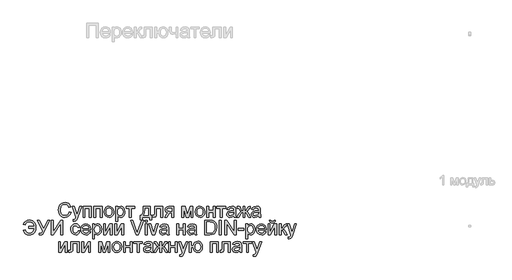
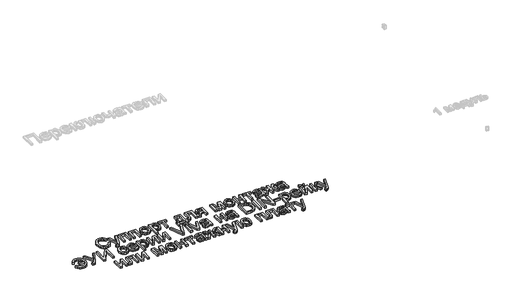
# One storey, part 2 of 15: 1 proxy.
"""IFC4 building model written with IfcOpenShell, lengths in millimetres."""

from ifc_helpers import new_model, si_unit, origin, origin_with_axes, place, context, project, spatial, polyline, outline, extrude, element, save

model = new_model("IFC4")

# Units and contexts
model_context = context("Model", 3, world=origin())
ifc_project = project(units=[si_unit("LENGTHUNIT", "METRE", prefix="MILLI")], contexts=[model_context])

# Site, building, storey
site = spatial("IfcSite", under=ifc_project)
building = spatial("IfcBuilding", under=site)
storey = spatial("IfcBuildingStorey", under=building, Name="Этаж 01", Elevation=0.0)

# Proxy
placement = place(None, origin())
element("IfcBuildingElementProxy", 1, Name="150 мм Arial", ObjectType="150 мм Arial", at=placement, inside=storey, context=model_context, shape_type="SweptSolid", body=[
    extrude(outline(polyline([(-2411.9581264, -14271.2929927), (-2393.1225682, -14276.1490351), (-2401.8137804, -14298.0977946), (-2415.4530054, -14314.1328511), (-2433.3688585, -14323.9415048), (-2454.8899552, -14327.211056), (-2476.7375472, -14324.7370496), (-2494.0877818, -14317.3150303), (-2507.3867159, -14305.2025156), (-2517.0804065, -14288.6570229), (-2522.9987081, -14269.2052624), (-2524.9714753, -14248.3739444), (-2522.7411907, -14226.4021923), (-2516.0503369, -14207.4286784), (-2505.2484019, -14192.0558095), (-2490.6848734, -14180.8859924), (-2473.4128137, -14174.084774), (-2454.485285, -14171.8177012), (-2433.8333095, -14174.7515601), (-2416.7589864, -14183.5531369), (-2403.7957446, -14197.6798055), (-2395.477013, -14216.58894), (-2414.3125712, -14221.0771004), (-2420.8424766, -14207.3413064), (-2429.763615, -14197.9189288), (-2441.1863509, -14192.4696767), (-2455.221049, -14190.6532594), (-2471.3986598, -14192.6674133), (-2484.6883968, -14198.7098751), (-2494.772962, -14208.1460482), (-2501.3350571, -14220.3413364), (-2506.1359172, -14248.3371562), (-2504.714973, -14265.7379746), (-2500.4521403, -14280.7843482), (-2493.1864709, -14292.9014614), (-2482.7570164, -14301.5144986), (-2470.2536271, -14306.660248), (-2456.7661534, -14308.3754978), (-2441.0437966, -14306.0394472), (-2427.9425991, -14299.0312952), (-2418.0511719, -14287.4246182), (-2411.9581264, -14271.2929927)])), origin_with_axes(), (0.0, 0.0, 1.0), 20.0),
    extrude(outline(polyline([(-2369.5781206, -14367.2366171), (-2371.9325653, -14349.1000347), (-2362.3676334, -14350.7555037), (-2353.428101, -14348.6769704), (-2347.9466592, -14342.882829), (-2342.7963113, -14329.0136778), (-2341.3247833, -14324.451941), (-2381.3503444, -14214.1977071), (-2361.4847167, -14214.1977071), (-2340.2579255, -14275.6340003), (-2332.8634974, -14300.2085175), (-2325.4690693, -14278.5034798), (-2303.653667, -14214.1977071), (-2283.9351921, -14214.1977071), (-2322.452437, -14327.5053616), (-2332.4588272, -14352.0798789), (-2343.3849225, -14365.3604189), (-2358.0634141, -14369.5910618), (-2369.5781206, -14367.2366171)])), origin_with_axes(), (0.0, 0.0, 1.0), 20.0),
    extrude(outline(polyline([(-2268.3369955, -14214.1977071), (-2183.5769838, -14214.1977071), (-2183.5769838, -14324.8566112), (-2202.4125419, -14324.8566112), (-2202.4125419, -14233.0332652), (-2249.5014373, -14233.0332652), (-2249.5014373, -14324.8566112), (-2268.3369955, -14324.8566112), (-2268.3369955, -14214.1977071)])), origin_with_axes(), (0.0, 0.0, 1.0), 20.0),
    extrude(outline(polyline([(-2155.3236466, -14214.1977071), (-2070.5636349, -14214.1977071), (-2070.5636349, -14324.8566112), (-2089.399193, -14324.8566112), (-2089.399193, -14233.0332652), (-2136.4880884, -14233.0332652), (-2136.4880884, -14324.8566112), (-2155.3236466, -14324.8566112), (-2155.3236466, -14214.1977071)])), origin_with_axes(), (0.0, 0.0, 1.0), 20.0),
    extrude(outline(polyline([(-2047.0191872, -14269.5271591), (-2042.9448941, -14242.8465174), (-2030.7220148, -14224.0937327), (-2015.6204589, -14214.9058799), (-1997.5390588, -14211.8432623), (-1977.751606, -14215.572666), (-1961.9464758, -14226.7608772), (-1951.5859991, -14244.524979), (-1948.1325069, -14267.9820548), (-1949.6592172, -14287.010751), (-1954.239348, -14301.4961045), (-1961.7395422, -14312.3440249), (-1972.0264425, -14320.4604214), (-1984.2447232, -14325.5233973), (-1997.5390588, -14327.211056), (-2017.5656349, -14323.4954478), (-2033.3523711, -14312.3486234), (-2043.6024832, -14294.212041), (-2047.0191872, -14269.5271591)]), holes=[polyline([(-2028.183629, -14269.4903709), (-2026.0039282, -14286.5371029), (-2019.4648257, -14298.6818073), (-2009.6239824, -14305.9520752), (-1997.5390588, -14308.3754978), (-1985.5093176, -14305.9382796), (-1975.6868683, -14298.626625), (-1969.1477659, -14286.3209722), (-1966.968065, -14268.9017597), (-1969.1615614, -14252.3516685), (-1975.7420506, -14240.372511), (-1985.5782955, -14233.1022431), (-1997.5390588, -14230.6788205), (-2009.6239824, -14233.093046), (-2019.4648257, -14240.3357228), (-2026.0039282, -14252.452836), (-2028.183629, -14269.4903709)])]), origin_with_axes(), (0.0, 0.0, 1.0), 20.0),
    extrude(outline(polyline([(-1926.942504, -14367.2366171), (-1926.942504, -14214.1977071), (-1908.1069458, -14214.1977071), (-1908.1069458, -14232.6653832), (-1895.0839232, -14217.0487925), (-1877.4991638, -14211.8432623), (-1864.7612497, -14213.6642782), (-1853.6236223, -14219.1273258), (-1844.5553311, -14227.9013114), (-1838.0254257, -14239.6551411), (-1832.7647132, -14268.6810306), (-1834.2500367, -14284.7896634), (-1838.7060074, -14299.1968421), (-1845.9900709, -14311.171401), (-1855.959673, -14319.9821748), (-1867.5709485, -14325.4038357), (-1879.7800322, -14327.211056), (-1896.1691751, -14322.3734077), (-1908.1069458, -14310.1413314), (-1908.1069458, -14367.2366171), (-1926.942504, -14367.2366171)]), holes=[polyline([(-1908.1069458, -14270.4100759), (-1906.0697993, -14287.2958595), (-1899.9583596, -14299.1048716), (-1890.9406522, -14306.0578413), (-1880.1847024, -14308.3754978), (-1869.2540086, -14305.9750678), (-1860.0063749, -14298.7737778), (-1853.7017972, -14286.5325044), (-1851.6002713, -14269.0121243), (-1853.6512135, -14252.2183113), (-1859.8040398, -14240.2437523), (-1868.8079517, -14233.0700534), (-1879.4121502, -14230.6788205), (-1890.0577354, -14233.2218047), (-1899.4065366, -14240.8507576), (-1905.9318435, -14253.3265558), (-1908.1069458, -14270.4100759)])]), origin_with_axes(), (0.0, 0.0, 1.0), 20.0),
    extrude(outline(polyline([(-1820.9924893, -14214.1977071), (-1731.5235881, -14214.1977071), (-1731.5235881, -14233.0332652), (-1766.8402597, -14233.0332652), (-1766.8402597, -14324.8566112), (-1785.6758178, -14324.8566112), (-1785.6758178, -14233.0332652), (-1820.9924893, -14233.0332652), (-1820.9924893, -14214.1977071)])), origin_with_axes(), (0.0, 0.0, 1.0), 20.0),
    extrude(outline(polyline([(-1639.7002421, -14214.1977071), (-1569.066899, -14214.1977071), (-1569.066899, -14306.0210531), (-1554.9402304, -14306.0210531), (-1554.9402304, -14355.4643932), (-1573.7757886, -14355.4643932), (-1573.7757886, -14324.8566112), (-1651.472466, -14324.8566112), (-1651.472466, -14355.4643932), (-1670.3080241, -14355.4643932), (-1670.3080241, -14306.0210531), (-1658.5358003, -14306.0210531), (-1649.9779454, -14290.5562137), (-1643.9860674, -14270.0973762), (-1639.7002421, -14214.1977071)]), holes=[polyline([(-1623.2191287, -14233.0332652), (-1627.6337127, -14275.9467), (-1637.3457974, -14306.0210531), (-1587.9024572, -14306.0210531), (-1587.9024572, -14233.0332652), (-1623.2191287, -14233.0332652)])]), origin_with_axes(), (0.0, 0.0, 1.0), 20.0),
    extrude(outline(polyline([(-1524.3324484, -14214.1977071), (-1439.5724367, -14214.1977071), (-1439.5724367, -14324.7462466), (-1458.4079949, -14324.7462466), (-1458.4079949, -14233.0332652), (-1505.4968903, -14233.0332652), (-1505.4968903, -14285.8243315), (-1506.7660832, -14310.1781196), (-1513.737447, -14320.4604214), (-1530.2185604, -14324.8566112), (-1545.5224514, -14323.900118), (-1545.5224514, -14306.0210531), (-1537.0979537, -14306.0210531), (-1528.5814855, -14304.8622248), (-1525.178577, -14301.1834048), (-1524.3324484, -14284.7574737), (-1524.3324484, -14214.1977071)])), origin_with_axes(), (0.0, 0.0, 1.0), 20.0),
    extrude(outline(polyline([(-1326.5590878, -14214.1977071), (-1326.5590878, -14324.8566112), (-1345.394646, -14324.8566112), (-1345.394646, -14282.4766054), (-1355.6585536, -14282.4766054), (-1369.6380695, -14284.8678383), (-1382.7714567, -14300.9442815), (-1397.7810421, -14324.8566112), (-1419.5596562, -14324.8566112), (-1400.6505217, -14294.6167112), (-1392.2996004, -14283.7641924), (-1384.6108667, -14278.9449382), (-1397.4867365, -14274.9994038), (-1406.5366336, -14267.5038082), (-1411.8893166, -14257.5342061), (-1413.6735443, -14246.1666524), (-1411.2363261, -14233.2723885), (-1403.9246714, -14223.0636632), (-1391.9960977, -14216.4141961), (-1375.7081224, -14214.1977071), (-1326.5590878, -14214.1977071)]), holes=[polyline([(-1345.394646, -14233.0332652), (-1370.2266807, -14233.0332652), (-1383.0519667, -14234.1231156), (-1390.3314317, -14237.3926669), (-1394.8379861, -14247.6013922), (-1393.1779186, -14254.7796897), (-1388.1977161, -14259.7598922), (-1364.6716625, -14263.6410472), (-1345.394646, -14263.6410472), (-1345.394646, -14233.0332652)])]), origin_with_axes(), (0.0, 0.0, 1.0), 20.0),
    extrude(outline(polyline([(-1239.4446314, -14214.1977071), (-1207.0342276, -14214.1977071), (-1182.0550401, -14302.7836915), (-1155.1260781, -14214.1977071), (-1124.0768377, -14214.1977071), (-1124.0768377, -14324.8566112), (-1142.9123958, -14324.8566112), (-1142.9123958, -14235.755592), (-1169.9885107, -14324.8566112), (-1194.7101808, -14324.8566112), (-1220.6090732, -14231.4881608), (-1220.6090732, -14324.8566112), (-1239.4446314, -14324.8566112), (-1239.4446314, -14214.1977071)])), origin_with_axes(), (0.0, 0.0, 1.0), 20.0),
    extrude(outline(polyline([(-1100.53239, -14269.5271591), (-1096.4580969, -14242.8465174), (-1084.2352176, -14224.0937327), (-1069.1336617, -14214.9058799), (-1051.0522616, -14211.8432623), (-1031.2648088, -14215.572666), (-1015.4596786, -14226.7608772), (-1005.0992019, -14244.524979), (-1001.6457097, -14267.9820548), (-1003.17242, -14287.010751), (-1007.7525508, -14301.4961045), (-1015.252745, -14312.3440249), (-1025.5396453, -14320.4604214), (-1037.757926, -14325.5233973), (-1051.0522616, -14327.211056), (-1071.0788378, -14323.4954478), (-1086.8655739, -14312.3486234), (-1097.115686, -14294.212041), (-1100.53239, -14269.5271591)]), holes=[polyline([(-1081.6968318, -14269.4903709), (-1079.517131, -14286.5371029), (-1072.9780286, -14298.6818073), (-1063.1371852, -14305.9520752), (-1051.0522616, -14308.3754978), (-1039.0225204, -14305.9382796), (-1029.2000711, -14298.626625), (-1022.6609687, -14286.3209722), (-1020.4812678, -14268.9017597), (-1022.6747642, -14252.3516685), (-1029.2552534, -14240.372511), (-1039.0914983, -14233.1022431), (-1051.0522616, -14230.6788205), (-1063.1371852, -14233.093046), (-1072.9780286, -14240.3357228), (-1079.517131, -14252.452836), (-1081.6968318, -14269.4903709)])]), origin_with_axes(), (0.0, 0.0, 1.0), 20.0),
    extrude(outline(polyline([(-980.4557068, -14214.1977071), (-961.6201486, -14214.1977071), (-961.6201486, -14256.5777129), (-912.1768085, -14256.5777129), (-912.1768085, -14214.1977071), (-893.3412503, -14214.1977071), (-893.3412503, -14324.8566112), (-912.1768085, -14324.8566112), (-912.1768085, -14275.4132711), (-961.6201486, -14275.4132711), (-961.6201486, -14324.8566112), (-980.4557068, -14324.8566112), (-980.4557068, -14214.1977071)])), origin_with_axes(), (0.0, 0.0, 1.0), 20.0),
    extrude(outline(polyline([(-874.5056922, -14214.1977071), (-785.0367909, -14214.1977071), (-785.0367909, -14233.0332652), (-820.3534625, -14233.0332652), (-820.3534625, -14324.8566112), (-839.1890206, -14324.8566112), (-839.1890206, -14233.0332652), (-874.5056922, -14233.0332652), (-874.5056922, -14214.1977071)])), origin_with_axes(), (0.0, 0.0, 1.0), 20.0),
    extrude(outline(polyline([(-697.9223345, -14310.7299426), (-716.1876755, -14323.4954478), (-736.366003, -14327.211056), (-752.1067538, -14324.9761729), (-763.7180293, -14318.2715235), (-770.8779326, -14308.0903893), (-773.2645671, -14295.4260516), (-769.6593235, -14280.5268308), (-760.1863622, -14269.7111001), (-746.9977926, -14263.5306826), (-730.7006202, -14260.6979913), (-698.0326991, -14254.2232681), (-697.9223345, -14250.0294134), (-699.2191185, -14241.6233098), (-703.1094706, -14236.123474), (-711.8098798, -14232.0399838), (-723.9315915, -14230.6788205), (-742.9878789, -14234.3024581), (-752.0745642, -14247.1599338), (-770.9101223, -14244.8054891), (-762.7615361, -14226.4113893), (-746.3539991, -14215.6324468), (-721.5035704, -14211.8432623), (-698.6764926, -14215.1909885), (-685.7822286, -14223.597092), (-680.0064813, -14236.3809914), (-679.0867763, -14252.8621048), (-679.0867763, -14276.2961879), (-678.1302831, -14309.0192913), (-674.3778868, -14324.8566112), (-693.2134449, -14324.8566112), (-697.9223345, -14310.7299426)]), holes=[polyline([(-697.9223345, -14273.0588263), (-728.3093873, -14278.8345736), (-744.5145892, -14281.8879942), (-751.853835, -14286.8544011), (-754.4290089, -14294.1016764), (-748.8188085, -14304.2920077), (-732.3560892, -14308.3754978), (-713.2998019, -14303.8689434), (-701.0125432, -14292.9612422), (-698.0326991, -14278.3931152), (-697.9223345, -14273.0588263)])]), origin_with_axes(), (0.0, 0.0, 1.0), 20.0),
    extrude(outline(polyline([(-584.9089856, -14214.1977071), (-584.9089856, -14261.2866024), (-573.927708, -14257.4054474), (-563.5350416, -14237.2639082), (-551.1374184, -14217.9501034), (-533.5158708, -14214.1977071), (-526.0478663, -14214.1977071), (-526.0478663, -14233.1436298), (-531.2350025, -14233.0332652), (-540.9470871, -14234.9830398), (-547.6793276, -14247.196722), (-555.49682, -14260.5876267), (-566.6620386, -14267.3934436), (-554.3471888, -14274.7234923), (-542.3450387, -14290.1653391), (-521.3389768, -14324.8566112), (-542.9336499, -14324.8566112), (-563.608618, -14290.6435857), (-574.1484372, -14276.4249466), (-584.9089856, -14273.0588263), (-584.9089856, -14324.8566112), (-603.7445437, -14324.8566112), (-603.7445437, -14273.0588263), (-614.4683039, -14276.3513702), (-625.0816994, -14290.5700093), (-645.7566676, -14324.8566112), (-667.3145525, -14324.8566112), (-646.3820669, -14290.1653391), (-634.2879464, -14274.7234923), (-621.9179143, -14267.3934436), (-633.7637145, -14259.8886509), (-643.9172576, -14240.5748461), (-648.8836645, -14234.2104876), (-657.0138566, -14232.9229006), (-662.6056629, -14233.0332652), (-662.6056629, -14214.1977071), (-659.7729716, -14214.1977071), (-643.25507, -14215.3749295), (-634.6834195, -14220.3781246), (-625.0816994, -14237.2639082), (-614.7993977, -14257.2766887), (-603.7445437, -14261.2866024), (-603.7445437, -14214.1977071), (-584.9089856, -14214.1977071)])), origin_with_axes(), (0.0, 0.0, 1.0), 20.0),
    extrude(outline(polyline([(-441.2878546, -14310.7299426), (-459.5531957, -14323.4954478), (-479.7315231, -14327.211056), (-495.472274, -14324.9761729), (-507.0835495, -14318.2715235), (-514.2434528, -14308.0903893), (-516.6300872, -14295.4260516), (-513.0248437, -14280.5268308), (-503.5518823, -14269.7111001), (-490.3633128, -14263.5306826), (-474.0661404, -14260.6979913), (-441.3982192, -14254.2232681), (-441.2878546, -14250.0294134), (-442.5846387, -14241.6233098), (-446.4749908, -14236.123474), (-455.1754, -14232.0399838), (-467.2971117, -14230.6788205), (-486.353399, -14234.3024581), (-495.4400843, -14247.1599338), (-514.2756425, -14244.8054891), (-506.1270563, -14226.4113893), (-489.7195193, -14215.6324468), (-464.8690905, -14211.8432623), (-442.0420127, -14215.1909885), (-429.1477488, -14223.597092), (-423.3720015, -14236.3809914), (-422.4522965, -14252.8621048), (-422.4522965, -14276.2961879), (-421.4958033, -14309.0192913), (-417.7434069, -14324.8566112), (-436.5789651, -14324.8566112), (-441.2878546, -14310.7299426)]), holes=[polyline([(-441.2878546, -14273.0588263), (-471.6749074, -14278.8345736), (-487.8801093, -14281.8879942), (-495.2193551, -14286.8544011), (-497.7945291, -14294.1016764), (-492.1843287, -14304.2920077), (-475.7216094, -14308.3754978), (-456.665322, -14303.8689434), (-444.3780634, -14292.9612422), (-441.3982192, -14278.3931152), (-441.2878546, -14273.0588263)])]), origin_with_axes(), (0.0, 0.0, 1.0), 20.0),
    extrude(outline(polyline([(-2833.4037401, -14420.7043815), (-2776.8970656, -14420.7043815), (-2781.0449351, -14401.2756137), (-2790.986946, -14386.3258091), (-2806.2724429, -14376.7930669), (-2826.4507704, -14373.6154861), (-2841.6603916, -14375.5284725), (-2853.7752056, -14381.2674316), (-2862.7952122, -14390.8323635), (-2868.7204116, -14404.2232681), (-2887.5559698, -14399.5143786), (-2879.4993541, -14380.7707909), (-2866.3659668, -14366.6257282), (-2848.7904045, -14357.7413781), (-2827.4072636, -14354.779928), (-2806.8702512, -14357.4976562), (-2789.4050534, -14365.6508409), (-2775.5313037, -14378.0300701), (-2765.7686353, -14393.4259316), (-2759.9882894, -14411.2268216), (-2758.0615075, -14430.8211364), (-2761.5471894, -14461.7094284), (-2774.2851034, -14487.2726286), (-2784.1052535, -14497.2916648), (-2796.2016733, -14504.4481192), (-2810.574363, -14508.7419919), (-2827.2233226, -14510.1732828), (-2849.7652918, -14507.083074), (-2867.7271302, -14497.8124477), (-2881.1088378, -14482.3614039), (-2889.9104145, -14460.7299426), (-2871.0748564, -14456.0210531), (-2864.7104979, -14471.4720969), (-2854.9248368, -14482.5085567), (-2841.7178732, -14489.1304326), (-2825.089607, -14491.3377246), (-2806.3092311, -14487.8704368), (-2791.2444634, -14477.4685734), (-2781.0541322, -14461.0518393), (-2776.8970656, -14439.5399397), (-2833.4037401, -14439.5399397), (-2833.4037401, -14420.7043815)])), origin_with_axes(), (0.0, 0.0, 1.0), 20.0),
    extrude(outline(polyline([(-2742.7576165, -14357.1343728), (-2721.8987073, -14357.1343728), (-2676.8331629, -14446.3825448), (-2636.2925671, -14357.1343728), (-2615.6175989, -14357.1343728), (-2672.8232492, -14474.5255174), (-2688.3846576, -14503.3674658), (-2695.7698886, -14508.4718285), (-2705.7854759, -14510.1732828), (-2722.7448359, -14507.818838), (-2722.7448359, -14491.3377246), (-2707.9191915, -14491.3377246), (-2696.9195199, -14487.1438699), (-2686.7291886, -14468.0507943), (-2742.7576165, -14357.1343728)])), origin_with_axes(), (0.0, 0.0, 1.0), 20.0),
    extrude(outline(polyline([(-2597.9592632, -14357.1343728), (-2579.123705, -14357.1343728), (-2579.123705, -14476.475292), (-2500.2498052, -14357.1343728), (-2480.2370247, -14357.1343728), (-2480.2370247, -14507.818838), (-2499.0725829, -14507.818838), (-2499.0725829, -14388.8090125), (-2577.7625416, -14507.818838), (-2597.9592632, -14507.818838), (-2597.9592632, -14357.1343728)])), origin_with_axes(), (0.0, 0.0, 1.0), 20.0),
    extrude(outline(polyline([(-2320.1347804, -14467.7932769), (-2301.2992222, -14470.1477217), (-2306.5507377, -14486.900148), (-2316.4191723, -14499.5598872), (-2329.9756238, -14507.5199339), (-2346.2911903, -14510.1732828), (-2366.3269634, -14506.4714702), (-2381.9941379, -14495.3660324), (-2392.1062942, -14477.3444132), (-2395.477013, -14452.8940561), (-2394.0376747, -14436.1324327), (-2389.7196598, -14421.6056924), (-2382.4539904, -14409.8748553), (-2372.1716886, -14401.5009414), (-2359.8706344, -14396.4793521), (-2346.5487077, -14394.8054891), (-2330.6332128, -14397.1047515), (-2317.9090943, -14404.0025389), (-2308.7810223, -14415.1309693), (-2303.653667, -14430.1221606), (-2322.4892252, -14432.4766054), (-2331.2264226, -14418.3683309), (-2346.4015549, -14413.6410472), (-2358.5738504, -14415.9679008), (-2368.2353513, -14422.9484617), (-2374.539929, -14434.9598088), (-2376.6414549, -14452.3790213), (-2374.5859142, -14470.0327586), (-2368.4192923, -14482.0854924), (-2358.9325353, -14489.0246666), (-2346.9165897, -14491.3377246), (-2337.1631183, -14489.8937878), (-2329.1662834, -14485.5619773), (-2323.3491493, -14478.2319285), (-2320.1347804, -14467.7932769)])), origin_with_axes(), (0.0, 0.0, 1.0), 20.0),
    extrude(outline(polyline([(-2207.3421607, -14474.8566112), (-2188.8744845, -14477.211056), (-2195.5285501, -14491.1261925), (-2206.1465442, -14501.5280559), (-2220.4893435, -14508.011976), (-2238.3178247, -14510.1732828), (-2260.4183355, -14506.443879), (-2277.4236808, -14495.2556678), (-2288.2670026, -14477.3352162), (-2291.8814432, -14453.4090909), (-2288.2302144, -14428.6782238), (-2277.276528, -14410.1829565), (-2260.501109, -14398.6498559), (-2239.3846825, -14394.8054891), (-2218.925845, -14398.6406589), (-2202.5780888, -14410.1461683), (-2191.8589272, -14428.6046474), (-2188.2858733, -14453.2987263), (-2188.3962379, -14458.3754978), (-2273.045885, -14458.3754978), (-2269.7855308, -14472.4745753), (-2262.2117603, -14482.8396505), (-2251.2810665, -14489.2132061), (-2237.9499427, -14491.3377246), (-2219.4822665, -14487.4013873), (-2207.3421607, -14474.8566112)]), holes=[polyline([(-2273.045885, -14439.5399397), (-2207.1214315, -14439.5399397), (-2209.6690143, -14429.5887317), (-2214.6630124, -14422.4702151), (-2225.6442899, -14415.8483392), (-2239.4582589, -14413.6410472), (-2252.1547862, -14415.4022823), (-2262.6532187, -14420.6859874), (-2269.9510777, -14428.9219456), (-2273.045885, -14439.5399397)])]), origin_with_axes(), (0.0, 0.0, 1.0), 20.0),
    extrude(outline(polyline([(-2169.4503152, -14550.1988438), (-2169.4503152, -14397.1599338), (-2150.614757, -14397.1599338), (-2150.614757, -14415.62761), (-2137.5917344, -14400.0110193), (-2120.006975, -14394.8054891), (-2107.2690609, -14396.6265049), (-2096.1314335, -14402.0895526), (-2087.0631424, -14410.8635382), (-2080.5332369, -14422.6173679), (-2075.2725244, -14451.6432573), (-2076.757848, -14467.7518902), (-2081.2138186, -14482.1590688), (-2088.4978821, -14494.1336278), (-2098.4674842, -14502.9444015), (-2110.0787597, -14508.3660625), (-2122.2878434, -14510.1732828), (-2138.6769863, -14505.3356345), (-2150.614757, -14493.1035582), (-2150.614757, -14550.1988438), (-2169.4503152, -14550.1988438)]), holes=[polyline([(-2150.614757, -14453.3723027), (-2148.5776105, -14470.2580863), (-2142.4661708, -14482.0670983), (-2133.4484634, -14489.020068), (-2122.6925136, -14491.3377246), (-2111.7618198, -14488.9372946), (-2102.5141862, -14481.7360045), (-2096.2096085, -14469.4947311), (-2094.1080826, -14451.9743511), (-2096.1590247, -14435.180538), (-2102.3118511, -14423.2059791), (-2111.3157629, -14416.0322802), (-2121.9199614, -14413.6410472), (-2132.5655466, -14416.1840315), (-2141.9143478, -14423.8129844), (-2148.4396547, -14436.2887825), (-2150.614757, -14453.3723027)])]), origin_with_axes(), (0.0, 0.0, 1.0), 20.0),
    extrude(outline(polyline([(-2054.0825215, -14397.1599338), (-2035.2469633, -14397.1599338), (-2035.2469633, -14481.5520635), (-1988.9674083, -14397.1599338), (-1964.6136203, -14397.1599338), (-1964.6136203, -14507.818838), (-1983.4491784, -14507.818838), (-1983.4491784, -14423.9417431), (-2029.4344278, -14507.818838), (-2054.0825215, -14507.818838), (-2054.0825215, -14397.1599338)])), origin_with_axes(), (0.0, 0.0, 1.0), 20.0),
    extrude(outline(polyline([(-1936.360283, -14397.1599338), (-1917.5247249, -14397.1599338), (-1917.5247249, -14481.5520635), (-1871.2451699, -14397.1599338), (-1846.8913818, -14397.1599338), (-1846.8913818, -14507.818838), (-1865.72694, -14507.818838), (-1865.72694, -14423.9417431), (-1911.7121894, -14507.818838), (-1936.360283, -14507.818838), (-1936.360283, -14397.1599338)])), origin_with_axes(), (0.0, 0.0, 1.0), 20.0),
    extrude(outline(polyline([(-1712.9087592, -14507.818838), (-1772.8735244, -14357.1343728), (-1752.713591, -14357.1343728), (-1712.5776654, -14465.6963495), (-1704.4474733, -14490.1605022), (-1696.4276458, -14465.6963495), (-1656.1813555, -14357.1343728), (-1636.0214222, -14357.1343728), (-1693.4478016, -14507.818838), (-1712.9087592, -14507.818838)])), origin_with_axes(), (0.0, 0.0, 1.0), 20.0),
    extrude(outline(polyline([(-1620.864684, -14375.9699309), (-1620.864684, -14357.1343728), (-1602.0291258, -14357.1343728), (-1602.0291258, -14375.9699309), (-1620.864684, -14375.9699309)])), origin_with_axes(), (0.0, 0.0, 1.0), 20.0),
    extrude(outline(polyline([(-1620.864684, -14507.818838), (-1620.864684, -14397.1599338), (-1602.0291258, -14397.1599338), (-1602.0291258, -14507.818838), (-1620.864684, -14507.818838)])), origin_with_axes(), (0.0, 0.0, 1.0), 20.0),
    extrude(outline(polyline([(-1546.6260973, -14507.818838), (-1585.5480124, -14397.1599338), (-1565.6088083, -14397.1599338), (-1542.0275724, -14463.4522694), (-1534.9274499, -14485.7459183), (-1527.9744802, -14464.7030681), (-1504.2460915, -14397.1599338), (-1484.3068874, -14397.1599338), (-1522.7505559, -14507.818838), (-1546.6260973, -14507.818838)])), origin_with_axes(), (0.0, 0.0, 1.0), 20.0),
    extrude(outline(polyline([(-1397.1924309, -14493.6921694), (-1415.457772, -14506.4576746), (-1435.6360994, -14510.1732828), (-1451.3768503, -14507.9383996), (-1462.9881257, -14501.2337503), (-1470.1480291, -14491.0526161), (-1472.5346635, -14478.3882784), (-1468.92942, -14463.4890576), (-1459.4564586, -14452.6733269), (-1446.2678891, -14446.4929094), (-1429.9707167, -14443.660218), (-1397.3027955, -14437.1854949), (-1397.1924309, -14432.9916402), (-1398.4892149, -14424.5855366), (-1402.379567, -14419.0857007), (-1411.0799762, -14415.0022106), (-1423.201688, -14413.6410472), (-1442.2579753, -14417.2646849), (-1451.3446606, -14430.1221606), (-1470.1802187, -14427.7677158), (-1462.0316326, -14409.3736161), (-1445.6240956, -14398.5946736), (-1420.7736668, -14394.8054891), (-1397.946589, -14398.1532152), (-1385.0523251, -14406.5593188), (-1379.2765777, -14419.3432181), (-1378.3568727, -14435.8243315), (-1378.3568727, -14459.2584146), (-1377.4003796, -14491.9815181), (-1373.6479832, -14507.818838), (-1392.4835414, -14507.818838), (-1397.1924309, -14493.6921694)]), holes=[polyline([(-1397.1924309, -14456.0210531), (-1427.5794837, -14461.7968004), (-1443.7846856, -14464.8502209), (-1451.1239314, -14469.8166279), (-1453.6991054, -14477.0639032), (-1448.0889049, -14487.2542345), (-1431.6261857, -14491.3377246), (-1412.5698983, -14486.8311702), (-1400.2826397, -14475.923469), (-1397.3027955, -14461.355342), (-1397.1924309, -14456.0210531)])]), origin_with_axes(), (0.0, 0.0, 1.0), 20.0),
    extrude(outline(polyline([(-1293.5968611, -14397.1599338), (-1274.7613029, -14397.1599338), (-1274.7613029, -14439.5399397), (-1225.3179628, -14439.5399397), (-1225.3179628, -14397.1599338), (-1206.4824046, -14397.1599338), (-1206.4824046, -14507.818838), (-1225.3179628, -14507.818838), (-1225.3179628, -14458.3754978), (-1274.7613029, -14458.3754978), (-1274.7613029, -14507.818838), (-1293.5968611, -14507.818838), (-1293.5968611, -14397.1599338)])), origin_with_axes(), (0.0, 0.0, 1.0), 20.0),
    extrude(outline(polyline([(-1107.5957243, -14493.6921694), (-1125.8610654, -14506.4576746), (-1146.0393928, -14510.1732828), (-1161.7801437, -14507.9383996), (-1173.3914191, -14501.2337503), (-1180.5513225, -14491.0526161), (-1182.9379569, -14478.3882784), (-1179.3327134, -14463.4890576), (-1169.859752, -14452.6733269), (-1156.6711825, -14446.4929094), (-1140.3740101, -14443.660218), (-1107.7060889, -14437.1854949), (-1107.5957243, -14432.9916402), (-1108.8925083, -14424.5855366), (-1112.7828604, -14419.0857007), (-1121.4832696, -14415.0022106), (-1133.6049814, -14413.6410472), (-1152.6612687, -14417.2646849), (-1161.747954, -14430.1221606), (-1180.5835121, -14427.7677158), (-1172.4349259, -14409.3736161), (-1156.027389, -14398.5946736), (-1131.1769602, -14394.8054891), (-1108.3498824, -14398.1532152), (-1095.4556185, -14406.5593188), (-1089.6798711, -14419.3432181), (-1088.7601661, -14435.8243315), (-1088.7601661, -14459.2584146), (-1087.803673, -14491.9815181), (-1084.0512766, -14507.818838), (-1102.8868348, -14507.818838), (-1107.5957243, -14493.6921694)]), holes=[polyline([(-1107.5957243, -14456.0210531), (-1137.9827771, -14461.7968004), (-1154.187979, -14464.8502209), (-1161.5272248, -14469.8166279), (-1164.1023988, -14477.0639032), (-1158.4921983, -14487.2542345), (-1142.029479, -14491.3377246), (-1122.9731917, -14486.8311702), (-1110.6859331, -14475.923469), (-1107.7060889, -14461.355342), (-1107.5957243, -14456.0210531)])]), origin_with_axes(), (0.0, 0.0, 1.0), 20.0),
    extrude(outline(polyline([(-1001.6457097, -14507.818838), (-1001.6457097, -14357.1343728), (-949.6639838, -14357.1343728), (-922.7718099, -14359.3048765), (-900.6253138, -14370.083819), (-890.2050563, -14381.5617372), (-882.783037, -14395.8355587), (-878.340862, -14412.6293717), (-876.8601369, -14431.667265), (-880.8700507, -14462.0727119), (-891.1707465, -14484.0168729), (-904.9295332, -14497.683689), (-922.9373568, -14505.243664), (-947.1623862, -14507.818838), (-1001.6457097, -14507.818838)]), holes=[polyline([(-982.8101515, -14488.9832798), (-949.4800428, -14488.9832798), (-925.2366193, -14486.2609531), (-911.2571035, -14478.5722194), (-899.7975793, -14459.8654199), (-895.6956951, -14431.3729594), (-897.7052505, -14410.8451441), (-903.7339167, -14395.6884059), (-912.6412595, -14385.2773454), (-923.2868447, -14378.9865633), (-949.9950776, -14375.9699309), (-982.8101515, -14375.9699309), (-982.8101515, -14488.9832798)])]), origin_with_axes(), (0.0, 0.0, 1.0), 20.0),
    extrude(outline(polyline([(-848.6067997, -14507.818838), (-848.6067997, -14357.1343728), (-829.7712415, -14357.1343728), (-829.7712415, -14507.818838), (-848.6067997, -14507.818838)])), origin_with_axes(), (0.0, 0.0, 1.0), 20.0),
    extrude(outline(polyline([(-792.1001252, -14507.818838), (-792.1001252, -14357.1343728), (-771.9401919, -14357.1343728), (-693.2134449, -14476.5120802), (-693.2134449, -14357.1343728), (-674.3778868, -14357.1343728), (-674.3778868, -14507.818838), (-694.5378201, -14507.818838), (-773.2645671, -14388.4043423), (-773.2645671, -14507.818838), (-792.1001252, -14507.818838)])), origin_with_axes(), (0.0, 0.0, 1.0), 20.0),
    extrude(outline(polyline([(-653.1878839, -14463.0843874), (-653.1878839, -14444.2488292), (-594.3267646, -14444.2488292), (-594.3267646, -14463.0843874), (-653.1878839, -14463.0843874)])), origin_with_axes(), (0.0, 0.0, 1.0), 20.0),
    extrude(outline(polyline([(-573.1367617, -14550.1988438), (-573.1367617, -14397.1599338), (-554.3012036, -14397.1599338), (-554.3012036, -14415.62761), (-541.2781809, -14400.0110193), (-523.6934216, -14394.8054891), (-510.9555075, -14396.6265049), (-499.8178801, -14402.0895526), (-490.7495889, -14410.8635382), (-484.2196835, -14422.6173679), (-478.9589709, -14451.6432573), (-480.4442945, -14467.7518902), (-484.9002652, -14482.1590688), (-492.1843287, -14494.1336278), (-502.1539307, -14502.9444015), (-513.7652062, -14508.3660625), (-525.9742899, -14510.1732828), (-542.3634328, -14505.3356345), (-554.3012036, -14493.1035582), (-554.3012036, -14550.1988438), (-573.1367617, -14550.1988438)]), holes=[polyline([(-554.3012036, -14453.3723027), (-552.264057, -14470.2580863), (-546.1526174, -14482.0670983), (-537.13491, -14489.020068), (-526.3789601, -14491.3377246), (-515.4482663, -14488.9372946), (-506.2006327, -14481.7360045), (-499.896055, -14469.4947311), (-497.7945291, -14451.9743511), (-499.8454712, -14435.180538), (-505.9982976, -14423.2059791), (-515.0022094, -14416.0322802), (-525.6064079, -14413.6410472), (-536.2519932, -14416.1840315), (-545.6007944, -14423.8129844), (-552.1261013, -14436.2887825), (-554.3012036, -14453.3723027)])]), origin_with_axes(), (0.0, 0.0, 1.0), 20.0),
    extrude(outline(polyline([(-380.2930198, -14474.8566112), (-361.8253437, -14477.211056), (-368.4794093, -14491.1261925), (-379.0974034, -14501.5280559), (-393.4402026, -14508.011976), (-411.2686838, -14510.1732828), (-433.3691947, -14506.443879), (-450.3745399, -14495.2556678), (-461.2178617, -14477.3352162), (-464.8323023, -14453.4090909), (-461.1810735, -14428.6782238), (-450.2273871, -14410.1829565), (-433.4519681, -14398.6498559), (-412.3355416, -14394.8054891), (-391.8767042, -14398.6406589), (-375.528948, -14410.1461683), (-364.8097864, -14428.6046474), (-361.2367325, -14453.2987263), (-361.3470971, -14458.3754978), (-445.9967442, -14458.3754978), (-442.73639, -14472.4745753), (-435.1626194, -14482.8396505), (-424.2319256, -14489.2132061), (-410.9008018, -14491.3377246), (-392.4331257, -14487.4013873), (-380.2930198, -14474.8566112)]), holes=[polyline([(-445.9967442, -14439.5399397), (-380.0722906, -14439.5399397), (-382.6198735, -14429.5887317), (-387.6138715, -14422.4702151), (-398.5951491, -14415.8483392), (-412.409118, -14413.6410472), (-425.1056454, -14415.4022823), (-435.6040778, -14420.6859874), (-442.9019369, -14428.9219456), (-445.9967442, -14439.5399397)])]), origin_with_axes(), (0.0, 0.0, 1.0), 20.0),
    extrude(outline(polyline([(-342.4011743, -14397.1599338), (-323.5656162, -14397.1599338), (-323.5656162, -14481.5520635), (-277.2860612, -14397.1599338), (-252.9322731, -14397.1599338), (-252.9322731, -14507.818838), (-271.7678313, -14507.818838), (-271.7678313, -14423.9417431), (-317.7530807, -14507.818838), (-342.4011743, -14507.818838), (-342.4011743, -14397.1599338)])), origin_with_axes(), (0.0, 0.0, 1.0), 20.0),
    extrude(outline(polyline([(-281.1856103, -14357.1343728), (-267.0589417, -14357.1343728), (-270.0985667, -14369.1963037), (-276.2008093, -14378.0852524), (-285.089758, -14383.5620956), (-296.4895013, -14385.38771), (-308.8595334, -14383.5758912), (-318.4520564, -14378.1404347), (-325.009553, -14369.2652816), (-328.2745057, -14357.1343728), (-314.1478371, -14357.1343728), (-308.8503364, -14367.7477683), (-298.1817585, -14371.2610414), (-286.4831111, -14367.8581329), (-281.1856103, -14357.1343728)])), origin_with_axes(), (0.0, 0.0, 1.0), 20.0),
    extrude(outline(polyline([(-132.8555899, -14550.1988438), (-135.2100346, -14532.0622615), (-125.6451028, -14533.7177304), (-116.7055703, -14531.6391972), (-111.2241286, -14525.8450557), (-106.0737806, -14511.9759045), (-104.6022526, -14507.4141678), (-144.6278137, -14397.1599338), (-124.762186, -14397.1599338), (-103.5353949, -14458.596227), (-96.1409668, -14483.1707443), (-88.7465387, -14461.4657066), (-66.9311363, -14397.1599338), (-47.2126614, -14397.1599338), (-85.7299063, -14510.4675883), (-95.7362966, -14535.0421056), (-106.6623918, -14548.3226457), (-121.3408834, -14552.5532886), (-132.8555899, -14550.1988438)])), origin_with_axes(), (0.0, 0.0, 1.0), 20.0),
    extrude(outline(polyline([(-224.6789359, -14397.1599338), (-205.8433777, -14397.1599338), (-205.8433777, -14444.2488292), (-193.2250253, -14440.8643149), (-182.8875412, -14421.1458399), (-174.2974966, -14404.1312976), (-166.7191275, -14398.5946736), (-152.9419468, -14397.1599338), (-149.3367033, -14397.1599338), (-149.3367033, -14416.1058566), (-154.4134748, -14415.995492), (-163.6105247, -14417.9820548), (-170.0852478, -14430.379678), (-177.682011, -14443.7889767), (-188.3321948, -14450.3556703), (-176.4496063, -14457.6857191), (-164.7877471, -14473.1275658), (-144.6278137, -14507.818838), (-166.0385458, -14507.818838), (-185.793809, -14473.8633298), (-195.7266229, -14459.4975379), (-205.8433777, -14456.0210531), (-205.8433777, -14507.818838), (-224.6789359, -14507.818838), (-224.6789359, -14397.1599338)])), origin_with_axes(), (0.0, 0.0, 1.0), 20.0),
    extrude(outline(polyline([(-2521.4398082, -14580.1221606), (-2502.60425, -14580.1221606), (-2502.60425, -14664.5142903), (-2456.324695, -14580.1221606), (-2431.9709069, -14580.1221606), (-2431.9709069, -14690.7810648), (-2450.8064651, -14690.7810648), (-2450.8064651, -14606.9039699), (-2496.7917145, -14690.7810648), (-2521.4398082, -14690.7810648), (-2521.4398082, -14580.1221606)])), origin_with_axes(), (0.0, 0.0, 1.0), 20.0),
    extrude(outline(polyline([(-2394.2997906, -14580.1221606), (-2309.5397789, -14580.1221606), (-2309.5397789, -14690.6707002), (-2328.3753371, -14690.6707002), (-2328.3753371, -14598.9577188), (-2375.4642325, -14598.9577188), (-2375.4642325, -14651.7487851), (-2376.7334254, -14676.1025731), (-2383.7047892, -14686.3848749), (-2400.1859026, -14690.7810648), (-2415.4897936, -14689.8245716), (-2415.4897936, -14671.9455066), (-2407.0652959, -14671.9455066), (-2398.5488277, -14670.7866783), (-2395.1459192, -14667.1078584), (-2394.2997906, -14650.6819273), (-2394.2997906, -14580.1221606)])), origin_with_axes(), (0.0, 0.0, 1.0), 20.0),
    extrude(outline(polyline([(-2281.2864417, -14580.1221606), (-2262.4508836, -14580.1221606), (-2262.4508836, -14664.5142903), (-2216.1713286, -14580.1221606), (-2191.8175405, -14580.1221606), (-2191.8175405, -14690.7810648), (-2210.6530986, -14690.7810648), (-2210.6530986, -14606.9039699), (-2256.638348, -14690.7810648), (-2281.2864417, -14690.7810648), (-2281.2864417, -14580.1221606)])), origin_with_axes(), (0.0, 0.0, 1.0), 20.0),
    extrude(outline(polyline([(-2104.703084, -14580.1221606), (-2072.2926803, -14580.1221606), (-2047.3134928, -14668.708145), (-2020.3845307, -14580.1221606), (-1989.3352903, -14580.1221606), (-1989.3352903, -14690.7810648), (-2008.1708485, -14690.7810648), (-2008.1708485, -14601.6800455), (-2035.2469633, -14690.7810648), (-2059.9686334, -14690.7810648), (-2085.8675259, -14597.4126144), (-2085.8675259, -14690.7810648), (-2104.703084, -14690.7810648), (-2104.703084, -14580.1221606)])), origin_with_axes(), (0.0, 0.0, 1.0), 20.0),
    extrude(outline(polyline([(-1965.7908426, -14635.4516127), (-1961.7165496, -14608.770971), (-1949.4936703, -14590.0181863), (-1934.3921144, -14580.8303334), (-1916.3107143, -14577.7677158), (-1896.5232615, -14581.4971196), (-1880.7181313, -14592.6853307), (-1870.3576546, -14610.4494326), (-1866.9041623, -14633.9065083), (-1868.4308726, -14652.9352045), (-1873.0110035, -14667.4205581), (-1880.5111976, -14678.2684784), (-1890.7980979, -14686.3848749), (-1903.0163787, -14691.4478509), (-1916.3107143, -14693.1355095), (-1936.3372904, -14689.4199014), (-1952.1240265, -14678.2730769), (-1962.3741386, -14660.1364946), (-1965.7908426, -14635.4516127)]), holes=[polyline([(-1946.9552845, -14635.4148245), (-1944.7755837, -14652.4615564), (-1938.2364812, -14664.6062608), (-1928.3956378, -14671.8765287), (-1916.3107143, -14674.2999514), (-1904.2809731, -14671.8627331), (-1894.4585238, -14664.5510785), (-1887.9194213, -14652.2454258), (-1885.7397205, -14634.8262133), (-1887.9332169, -14618.276122), (-1894.5137061, -14606.2969646), (-1904.3499509, -14599.0266966), (-1916.3107143, -14596.603274), (-1928.3956378, -14599.0174996), (-1938.2364812, -14606.2601764), (-1944.7755837, -14618.3772896), (-1946.9552845, -14635.4148245)])]), origin_with_axes(), (0.0, 0.0, 1.0), 20.0),
    extrude(outline(polyline([(-1845.7141594, -14580.1221606), (-1826.8786013, -14580.1221606), (-1826.8786013, -14622.5021664), (-1777.4352611, -14622.5021664), (-1777.4352611, -14580.1221606), (-1758.599703, -14580.1221606), (-1758.599703, -14690.7810648), (-1777.4352611, -14690.7810648), (-1777.4352611, -14641.3377246), (-1826.8786013, -14641.3377246), (-1826.8786013, -14690.7810648), (-1845.7141594, -14690.7810648), (-1845.7141594, -14580.1221606)])), origin_with_axes(), (0.0, 0.0, 1.0), 20.0),
    extrude(outline(polyline([(-1739.7641448, -14580.1221606), (-1650.2952436, -14580.1221606), (-1650.2952436, -14598.9577188), (-1685.6119151, -14598.9577188), (-1685.6119151, -14690.7810648), (-1704.4474733, -14690.7810648), (-1704.4474733, -14598.9577188), (-1739.7641448, -14598.9577188), (-1739.7641448, -14580.1221606)])), origin_with_axes(), (0.0, 0.0, 1.0), 20.0),
    extrude(outline(polyline([(-1563.1807871, -14676.6543961), (-1581.4461282, -14689.4199014), (-1601.6244556, -14693.1355095), (-1617.3652065, -14690.9006264), (-1628.976482, -14684.195977), (-1636.1363853, -14674.0148428), (-1638.5230197, -14661.3505051), (-1634.9177762, -14646.4512843), (-1625.4448148, -14635.6355537), (-1612.2562453, -14629.4551362), (-1595.9590729, -14626.6224448), (-1563.2911517, -14620.1477217), (-1563.1807871, -14615.9538669), (-1564.4775712, -14607.5477633), (-1568.3679233, -14602.0479275), (-1577.0683324, -14597.9644374), (-1589.1900442, -14596.603274), (-1608.2463315, -14600.2269116), (-1617.3330168, -14613.0843874), (-1636.168575, -14610.7299426), (-1628.0199888, -14592.3358428), (-1611.6124518, -14581.5569004), (-1586.762023, -14577.7677158), (-1563.9349452, -14581.115442), (-1551.0406813, -14589.5215456), (-1545.264934, -14602.3054449), (-1544.345229, -14618.7865583), (-1544.345229, -14642.2206414), (-1543.3887358, -14674.9437449), (-1539.6363394, -14690.7810648), (-1558.4718976, -14690.7810648), (-1563.1807871, -14676.6543961)]), holes=[polyline([(-1563.1807871, -14638.9832798), (-1593.5678399, -14644.7590272), (-1609.7730418, -14647.8124477), (-1617.1122876, -14652.7788546), (-1619.6874616, -14660.02613), (-1614.0772612, -14670.2164612), (-1597.6145419, -14674.2999514), (-1578.5582545, -14669.7933969), (-1566.2709959, -14658.8856958), (-1563.2911517, -14644.3175688), (-1563.1807871, -14638.9832798)])]), origin_with_axes(), (0.0, 0.0, 1.0), 20.0),
    extrude(outline(polyline([(-1450.1674382, -14580.1221606), (-1450.1674382, -14627.211056), (-1439.1861607, -14623.3299009), (-1428.7934943, -14603.1883617), (-1416.3958711, -14583.874557), (-1398.7743235, -14580.1221606), (-1391.306319, -14580.1221606), (-1391.306319, -14599.0680834), (-1396.4934551, -14598.9577188), (-1406.2055398, -14600.9074933), (-1412.9377803, -14613.1211756), (-1420.7552727, -14626.5120802), (-1431.9204912, -14633.3178971), (-1419.6056415, -14640.6479459), (-1407.6034914, -14656.0897926), (-1386.5974294, -14690.7810648), (-1408.1921026, -14690.7810648), (-1428.8670707, -14656.5680392), (-1439.4068898, -14642.3494001), (-1450.1674382, -14638.9832798), (-1450.1674382, -14690.7810648), (-1469.0029964, -14690.7810648), (-1469.0029964, -14638.9832798), (-1479.7267565, -14642.2758237), (-1490.3401521, -14656.4944628), (-1511.0151202, -14690.7810648), (-1532.5730051, -14690.7810648), (-1511.6405196, -14656.0897926), (-1499.546399, -14640.6479459), (-1487.1763669, -14633.3178971), (-1499.0221672, -14625.8131044), (-1509.1757102, -14606.4992997), (-1514.1421172, -14600.1349411), (-1522.2723093, -14598.8473542), (-1527.8641156, -14598.9577188), (-1527.8641156, -14580.1221606), (-1525.0314242, -14580.1221606), (-1508.5135226, -14581.299383), (-1499.9418722, -14586.3025781), (-1490.3401521, -14603.1883617), (-1480.0578503, -14623.2011422), (-1469.0029964, -14627.211056), (-1469.0029964, -14580.1221606), (-1450.1674382, -14580.1221606)])), origin_with_axes(), (0.0, 0.0, 1.0), 20.0),
    extrude(outline(polyline([(-1377.1796504, -14580.1221606), (-1358.3440922, -14580.1221606), (-1358.3440922, -14622.5021664), (-1308.9007521, -14622.5021664), (-1308.9007521, -14580.1221606), (-1290.0651939, -14580.1221606), (-1290.0651939, -14690.7810648), (-1308.9007521, -14690.7810648), (-1308.9007521, -14641.3377246), (-1358.3440922, -14641.3377246), (-1358.3440922, -14690.7810648), (-1377.1796504, -14690.7810648), (-1377.1796504, -14580.1221606)])), origin_with_axes(), (0.0, 0.0, 1.0), 20.0),
    extrude(outline(polyline([(-1261.8118567, -14733.1610706), (-1264.1663014, -14715.0244882), (-1254.6013696, -14716.6799572), (-1245.6618371, -14714.6014239), (-1240.1803954, -14708.8072825), (-1235.0300474, -14694.9381313), (-1233.5585194, -14690.3763946), (-1273.5840805, -14580.1221606), (-1253.7184528, -14580.1221606), (-1232.4916617, -14641.5584538), (-1225.0972336, -14666.1329711), (-1217.7028055, -14644.4279334), (-1195.8874031, -14580.1221606), (-1176.1689282, -14580.1221606), (-1214.6861731, -14693.4298151), (-1224.6925634, -14718.0043324), (-1235.6186586, -14731.2848724), (-1250.2971502, -14735.5155154), (-1261.8118567, -14733.1610706)])), origin_with_axes(), (0.0, 0.0, 1.0), 20.0),
    extrude(outline(polyline([(-1160.5707316, -14580.1221606), (-1141.7351735, -14580.1221606), (-1141.7351735, -14622.5021664), (-1120.5451705, -14622.5021664), (-1115.6569385, -14603.2987263), (-1105.9218612, -14589.2456341), (-1091.956141, -14580.6371954), (-1074.3759801, -14577.7677158), (-1059.6009195, -14579.4553745), (-1048.3115408, -14584.5183504), (-1032.5661914, -14603.1147853), (-1027.9170827, -14617.0207247), (-1026.3673798, -14635.0469425), (-1029.5725516, -14660.1732828), (-1039.1880673, -14678.3834415), (-1054.2942217, -14689.4474925), (-1073.9713099, -14693.1355095), (-1092.3608112, -14689.6774188), (-1106.6944134, -14679.3031465), (-1116.3099291, -14662.8956095), (-1120.5451705, -14641.3377246), (-1141.7351735, -14641.3377246), (-1141.7351735, -14690.7810648), (-1160.5707316, -14690.7810648), (-1160.5707316, -14580.1221606)]), holes=[polyline([(-1073.1619696, -14596.603274), (-1085.1687182, -14599.0404922), (-1094.1864256, -14606.3521469), (-1099.8288157, -14618.0599914), (-1101.7096124, -14633.6857791), (-1099.8150201, -14651.8913393), (-1094.1312433, -14664.4958962), (-1085.2744842, -14671.8489376), (-1073.8609453, -14674.2999514), (-1062.4152168, -14672.0328786), (-1053.2411595, -14665.2316602), (-1047.2124933, -14653.3812614), (-1045.2029379, -14635.9666475), (-1046.9411803, -14618.7451716), (-1052.1559076, -14606.4441174), (-1060.883908, -14599.0634848), (-1073.1619696, -14596.603274)])]), origin_with_axes(), (0.0, 0.0, 1.0), 20.0),
    extrude(outline(polyline([(-943.9618128, -14580.1221606), (-859.2018012, -14580.1221606), (-859.2018012, -14690.7810648), (-878.0373593, -14690.7810648), (-878.0373593, -14598.9577188), (-925.1262547, -14598.9577188), (-925.1262547, -14690.7810648), (-943.9618128, -14690.7810648), (-943.9618128, -14580.1221606)])), origin_with_axes(), (0.0, 0.0, 1.0), 20.0),
    extrude(outline(polyline([(-821.5306848, -14580.1221606), (-736.7706732, -14580.1221606), (-736.7706732, -14690.6707002), (-755.6062313, -14690.6707002), (-755.6062313, -14598.9577188), (-802.6951267, -14598.9577188), (-802.6951267, -14651.7487851), (-803.9643196, -14676.1025731), (-810.9356834, -14686.3848749), (-827.4167968, -14690.7810648), (-842.7206878, -14689.8245716), (-842.7206878, -14671.9455066), (-834.2961901, -14671.9455066), (-825.7797219, -14670.7866783), (-822.3768134, -14667.1078584), (-821.5306848, -14650.6819273), (-821.5306848, -14580.1221606)])), origin_with_axes(), (0.0, 0.0, 1.0), 20.0),
    extrude(outline(polyline([(-637.8839929, -14676.6543961), (-656.1493339, -14689.4199014), (-676.3276614, -14693.1355095), (-692.0684122, -14690.9006264), (-703.6796877, -14684.195977), (-710.839591, -14674.0148428), (-713.2262255, -14661.3505051), (-709.6209819, -14646.4512843), (-700.1480205, -14635.6355537), (-686.959451, -14629.4551362), (-670.6622786, -14626.6224448), (-637.9943575, -14620.1477217), (-637.8839929, -14615.9538669), (-639.1807769, -14607.5477633), (-643.071129, -14602.0479275), (-651.7715382, -14597.9644374), (-663.8932499, -14596.603274), (-682.9495373, -14600.2269116), (-692.0362225, -14613.0843874), (-710.8717807, -14610.7299426), (-702.7231945, -14592.3358428), (-686.3156575, -14581.5569004), (-661.4652287, -14577.7677158), (-638.6381509, -14581.115442), (-625.743887, -14589.5215456), (-619.9681397, -14602.3054449), (-619.0484347, -14618.7865583), (-619.0484347, -14642.2206414), (-618.0919415, -14674.9437449), (-614.3395452, -14690.7810648), (-633.1751033, -14690.7810648), (-637.8839929, -14676.6543961)]), holes=[polyline([(-637.8839929, -14638.9832798), (-668.2710457, -14644.7590272), (-684.4762475, -14647.8124477), (-691.8154934, -14652.7788546), (-694.3906673, -14660.02613), (-688.7804669, -14670.2164612), (-672.3177476, -14674.2999514), (-653.2614603, -14669.7933969), (-640.9742016, -14658.8856958), (-637.9943575, -14644.3175688), (-637.8839929, -14638.9832798)])]), origin_with_axes(), (0.0, 0.0, 1.0), 20.0),
    extrude(outline(polyline([(-602.5673213, -14580.1221606), (-513.0984201, -14580.1221606), (-513.0984201, -14598.9577188), (-548.4150916, -14598.9577188), (-548.4150916, -14690.7810648), (-567.2506498, -14690.7810648), (-567.2506498, -14598.9577188), (-602.5673213, -14598.9577188), (-602.5673213, -14580.1221606)])), origin_with_axes(), (0.0, 0.0, 1.0), 20.0),
    extrude(outline(polyline([(-496.6173067, -14733.1610706), (-498.9717515, -14715.0244882), (-489.4068196, -14716.6799572), (-480.4672871, -14714.6014239), (-474.9858454, -14708.8072825), (-469.8354975, -14694.9381313), (-468.3639695, -14690.3763946), (-508.3895306, -14580.1221606), (-488.5239028, -14580.1221606), (-467.2971117, -14641.5584538), (-459.9026836, -14666.1329711), (-452.5082555, -14644.4279334), (-430.6928532, -14580.1221606), (-410.9743782, -14580.1221606), (-449.4916231, -14693.4298151), (-459.4980134, -14718.0043324), (-470.4241087, -14731.2848724), (-485.1026003, -14735.5155154), (-496.6173067, -14733.1610706)])), origin_with_axes(), (0.0, 0.0, 1.0), 20.0),
])

save(model, "model.ifc")
